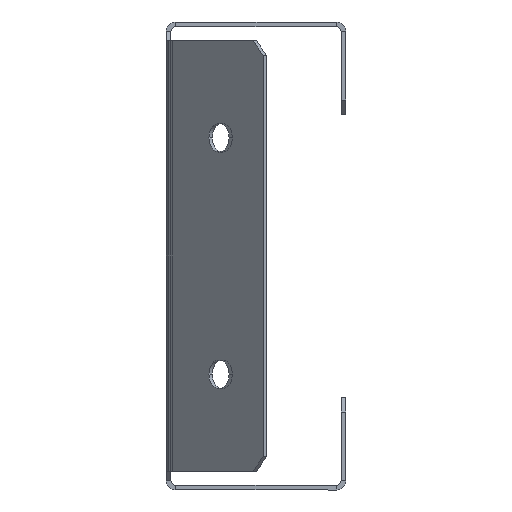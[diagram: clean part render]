
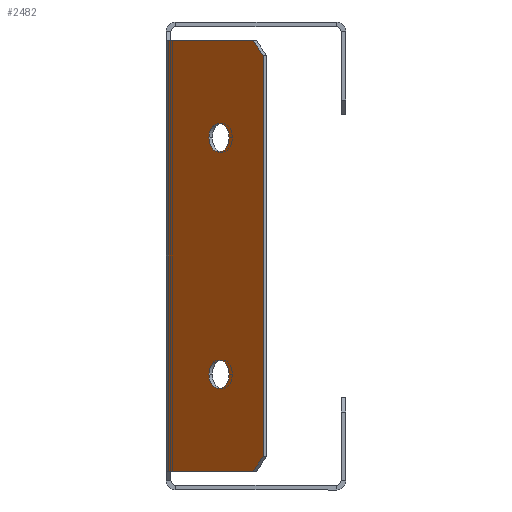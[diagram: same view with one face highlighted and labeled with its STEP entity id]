
A CAD part, left-side view. The second image highlights one B-rep face of the part: STEP entity #2482.
In plain terms, the highlighted planar face has unit normal (-0.707, 0.707, 0).
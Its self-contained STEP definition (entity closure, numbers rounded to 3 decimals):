
#1 = VERTEX_POINT ( 'NONE', #341 ) ;
#7 = CARTESIAN_POINT ( 'NONE',  ( -366.001, -11.172, -25. ) ) ;
#9 = VECTOR ( 'NONE', #1978, 1000. ) ;
#14 = EDGE_CURVE ( 'NONE', #994, #2726, #3188, .T. ) ;
#59 = ORIENTED_EDGE ( 'NONE', *, *, #1525, .F. ) ;
#107 = CARTESIAN_POINT ( 'NONE',  ( -375.335, -20.506, 45.5 ) ) ;
#108 = CARTESIAN_POINT ( 'NONE',  ( -373.213, -18.385, 45.5 ) ) ;
#111 = VERTEX_POINT ( 'NONE', #934 ) ;
#128 = EDGE_CURVE ( 'NONE', #2763, #2357, #1436, .T. ) ;
#213 = CIRCLE ( 'NONE', #2551, 3. ) ;
#217 = VECTOR ( 'NONE', #3095, 1000. ) ;
#292 = CARTESIAN_POINT ( 'NONE',  ( -368.122, -13.294, 25. ) ) ;
#329 = ORIENTED_EDGE ( 'NONE', *, *, #1965, .T. ) ;
#341 = CARTESIAN_POINT ( 'NONE',  ( -355.414, -0.586, 45.5 ) ) ;
#370 = LINE ( 'NONE', #1379, #1562 ) ;
#371 = DIRECTION ( 'NONE',  ( -0.707, -0.707, 0. ) ) ;
#387 = EDGE_CURVE ( 'NONE', #2828, #1508, #213, .T. ) ;
#396 = ORIENTED_EDGE ( 'NONE', *, *, #1326, .F. ) ;
#478 = CARTESIAN_POINT ( 'NONE',  ( -291.504, 63.324, 161.054 ) ) ;
#501 = ORIENTED_EDGE ( 'NONE', *, *, #1219, .F. ) ;
#524 = CARTESIAN_POINT ( 'NONE',  ( -375.335, -20.506, -42.5 ) ) ;
#582 = ORIENTED_EDGE ( 'NONE', *, *, #14, .T. ) ;
#585 = EDGE_CURVE ( 'NONE', #2763, #2726, #1018, .T. ) ;
#682 = CARTESIAN_POINT ( 'NONE',  ( -373.213, -18.385, -45.5 ) ) ;
#837 = CARTESIAN_POINT ( 'NONE',  ( -363.879, -9.051, -25. ) ) ;
#845 = DIRECTION ( 'NONE',  ( -0.707, 0.707, 0. ) ) ;
#850 = VECTOR ( 'NONE', #1893, 1000. ) ;
#934 = CARTESIAN_POINT ( 'NONE',  ( -355.414, -0.586, -45.5 ) ) ;
#994 = VERTEX_POINT ( 'NONE', #682 ) ;
#1018 = LINE ( 'NONE', #2817, #217 ) ;
#1032 = DIRECTION ( 'NONE',  ( -0.707, -0.707, 0. ) ) ;
#1061 = CARTESIAN_POINT ( 'NONE',  ( -366.001, -11.172, -25. ) ) ;
#1108 = DIRECTION ( 'NONE',  ( -0.707, 0.707, 0. ) ) ;
#1122 = EDGE_CURVE ( 'NONE', #2441, #1593, #1723, .T. ) ;
#1219 = EDGE_CURVE ( 'NONE', #1593, #2441, #1898, .T. ) ;
#1235 = AXIS2_PLACEMENT_3D ( 'NONE', #3228, #2486, #2474 ) ;
#1269 = DIRECTION ( 'NONE',  ( 0.707, 0.707, 0. ) ) ;
#1273 = ORIENTED_EDGE ( 'NONE', *, *, #387, .F. ) ;
#1326 = EDGE_CURVE ( 'NONE', #1, #2357, #1937, .T. ) ;
#1379 = CARTESIAN_POINT ( 'NONE',  ( -355.414, -0.586, 0. ) ) ;
#1436 = LINE ( 'NONE', #478, #2168 ) ;
#1492 = EDGE_CURVE ( 'NONE', #1508, #2828, #2988, .T. ) ;
#1508 = VERTEX_POINT ( 'NONE', #2794 ) ;
#1525 = EDGE_CURVE ( 'NONE', #994, #111, #2316, .T. ) ;
#1540 = CARTESIAN_POINT ( 'NONE',  ( -375.335, -20.506, 42.5 ) ) ;
#1559 = FACE_BOUND ( 'NONE', #3348, .T. ) ;
#1562 = VECTOR ( 'NONE', #2147, 1000. ) ;
#1593 = VERTEX_POINT ( 'NONE', #2931 ) ;
#1634 = FACE_BOUND ( 'NONE', #3282, .T. ) ;
#1642 = CARTESIAN_POINT ( 'NONE',  ( -366.001, -11.172, 25. ) ) ;
#1679 = ORIENTED_EDGE ( 'NONE', *, *, #585, .F. ) ;
#1723 = CIRCLE ( 'NONE', #3313, 3. ) ;
#1734 = CARTESIAN_POINT ( 'NONE',  ( -366.001, -11.172, 25. ) ) ;
#1771 = DIRECTION ( 'NONE',  ( -0.707, 0.707, 0. ) ) ;
#1887 = EDGE_LOOP ( 'NONE', ( #1679, #2027, #396, #329, #59, #582 ) ) ;
#1893 = DIRECTION ( 'NONE',  ( -0.5, -0.5, 0.707 ) ) ;
#1898 = CIRCLE ( 'NONE', #2780, 3. ) ;
#1932 = ORIENTED_EDGE ( 'NONE', *, *, #1122, .F. ) ;
#1937 = LINE ( 'NONE', #107, #9 ) ;
#1965 = EDGE_CURVE ( 'NONE', #1, #111, #370, .T. ) ;
#1978 = DIRECTION ( 'NONE',  ( -0.707, -0.707, 0. ) ) ;
#1991 = DIRECTION ( 'NONE',  ( 0.5, 0.5, 0.707 ) ) ;
#2027 = ORIENTED_EDGE ( 'NONE', *, *, #128, .T. ) ;
#2075 = VECTOR ( 'NONE', #1269, 1000. ) ;
#2139 = DIRECTION ( 'NONE',  ( -0.707, -0.707, 0. ) ) ;
#2147 = DIRECTION ( 'NONE',  ( 0., 0., -1. ) ) ;
#2168 = VECTOR ( 'NONE', #1991, 1000. ) ;
#2316 = LINE ( 'NONE', #2595, #2075 ) ;
#2357 = VERTEX_POINT ( 'NONE', #108 ) ;
#2393 = ORIENTED_EDGE ( 'NONE', *, *, #1492, .F. ) ;
#2441 = VERTEX_POINT ( 'NONE', #837 ) ;
#2474 = DIRECTION ( 'NONE',  ( -0.707, -0.707, 0. ) ) ;
#2482 = ADVANCED_FACE ( 'NONE', ( #1634, #1559, #2632 ), #3240, .T. ) ;
#2486 = DIRECTION ( 'NONE',  ( -0.707, 0.707, 0. ) ) ;
#2551 = AXIS2_PLACEMENT_3D ( 'NONE', #1642, #845, #371 ) ;
#2595 = CARTESIAN_POINT ( 'NONE',  ( -355.121, -0.293, -45.5 ) ) ;
#2632 = FACE_OUTER_BOUND ( 'NONE', #1887, .T. ) ;
#2726 = VERTEX_POINT ( 'NONE', #524 ) ;
#2763 = VERTEX_POINT ( 'NONE', #1540 ) ;
#2780 = AXIS2_PLACEMENT_3D ( 'NONE', #1061, #1108, #2139 ) ;
#2794 = CARTESIAN_POINT ( 'NONE',  ( -363.879, -9.051, 25. ) ) ;
#2817 = CARTESIAN_POINT ( 'NONE',  ( -375.335, -20.506, -45.5 ) ) ;
#2828 = VERTEX_POINT ( 'NONE', #292 ) ;
#2931 = CARTESIAN_POINT ( 'NONE',  ( -368.122, -13.294, -25. ) ) ;
#2988 = CIRCLE ( 'NONE', #3255, 3. ) ;
#3059 = DIRECTION ( 'NONE',  ( -0.707, 0.707, 0. ) ) ;
#3095 = DIRECTION ( 'NONE',  ( 0., 0., -1. ) ) ;
#3104 = DIRECTION ( 'NONE',  ( -0.707, -0.707, 0. ) ) ;
#3188 = LINE ( 'NONE', #3204, #850 ) ;
#3204 = CARTESIAN_POINT ( 'NONE',  ( -291.504, 63.324, -161.054 ) ) ;
#3228 = CARTESIAN_POINT ( 'NONE',  ( -177.621, 177.207, 0. ) ) ;
#3240 = PLANE ( 'NONE',  #1235 ) ;
#3255 = AXIS2_PLACEMENT_3D ( 'NONE', #1734, #1771, #3104 ) ;
#3282 = EDGE_LOOP ( 'NONE', ( #1273, #2393 ) ) ;
#3313 = AXIS2_PLACEMENT_3D ( 'NONE', #7, #3059, #1032 ) ;
#3348 = EDGE_LOOP ( 'NONE', ( #501, #1932 ) ) ;
